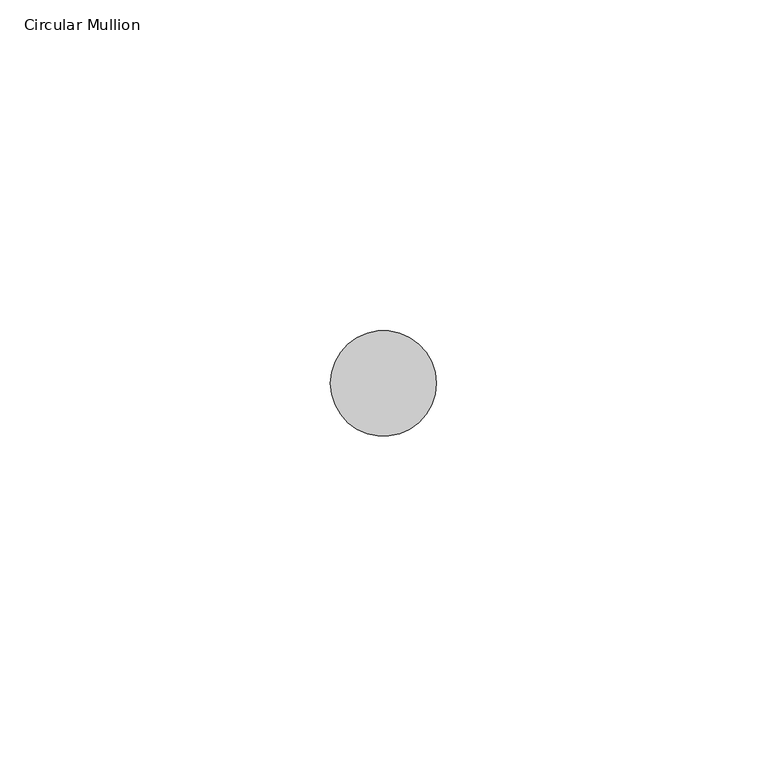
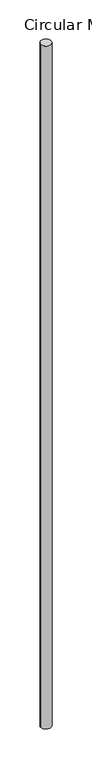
"""IFC4 building model written with IfcOpenShell, lengths in millimetres: member geometry, Circular Mullion : ARQ_HERR_16mm."""

import ifcopenshell
import ifcopenshell.guid

model = None  # the IFC model being written
_history = None  # IfcOwnerHistory: only IFC2X3 demands one
_inside = {}  # id of a spatial element -> (the spatial element, [elements in it])
_under = {}  # id of a project, library or spatial element -> (it, [spatial elements below it])
_declared = {}  # id of a project -> (the project, [libraries it declares])
_typed = {}  # id of a type object -> (the type object, [elements of that type])
_made_of = {}  # id of a material, layer set ... -> (it, [elements and type objects made of it])


def new_model(schema):
    """Start an empty IFC model of exactly this schema.

    Asked for "IFC4X3", IfcOpenShell would pick the latest addendum, in which some entities
    have other attributes; the version numbers below select the first issue.
    IFC2X3 requires an IfcOwnerHistory on every rooted entity: one is made here for all.
    """
    global model, _history
    if schema == "IFC4X3":
        model = ifcopenshell.file(schema_version=(4, 3, 0, 0))
    else:
        model = ifcopenshell.file(schema=schema)
    _inside.clear()
    _under.clear()
    _declared.clear()
    _typed.clear()
    _made_of.clear()
    _history = None
    if model.schema == "IFC2X3":
        org = make("IfcOrganization", Name="unknown")
        user = make(
            "IfcPersonAndOrganization",
            ThePerson=make("IfcPerson", FamilyName="unknown"),
            TheOrganization=org,
        )
        app = make(
            "IfcApplication",
            ApplicationDeveloper=org,
            Version="unknown",
            ApplicationFullName="unknown",
            ApplicationIdentifier="unknown",
        )
        _history = make(
            "IfcOwnerHistory",
            OwningUser=user,
            OwningApplication=app,
            ChangeAction="ADDED",
            CreationDate=0,
        )
    return model


def make(cls, **values):
    """One entity of the class cls with the attributes given. An attribute that is None is left unset."""
    return model.create_entity(
        cls, **{name: value for name, value in values.items() if value is not None}
    )


def rooted(cls, **values):
    """An entity with a GlobalId (a new one), such as an element, a storey or a relation."""
    return make(cls, GlobalId=ifcopenshell.guid.new(), OwnerHistory=_history, **values)


def si_unit(unit_type, name, prefix=None):
    """IfcSIUnit, for example si_unit("LENGTHUNIT", "METRE", prefix="MILLI")."""
    return make("IfcSIUnit", UnitType=unit_type, Prefix=prefix, Name=name)


def assignment(units):
    """IfcUnitAssignment: the units of a project."""
    return None if units is None else make("IfcUnitAssignment", Units=units)


def point(xyz):
    """IfcCartesianPoint."""
    return None if xyz is None else make("IfcCartesianPoint", Coordinates=xyz)


def direction(xyz):
    """IfcDirection."""
    return None if xyz is None else make("IfcDirection", DirectionRatios=xyz)


def frame(location, z_axis=None, x_axis=None):
    """IfcAxis2Placement3D, a coordinate frame: its origin and axes. An axis left out is left unset."""
    return make(
        "IfcAxis2Placement3D",
        Location=point(location),
        Axis=direction(z_axis),
        RefDirection=direction(x_axis),
    )


def frame_2d(location, x_axis=None):
    """IfcAxis2Placement2D, a coordinate frame in the plane: its origin and x axis."""
    return make(
        "IfcAxis2Placement2D", Location=point(location), RefDirection=direction(x_axis)
    )


def origin():
    """The frame at (0, 0, 0) with its axes left unset."""
    return frame((0.0, 0.0, 0.0))


def origin_2d():
    """The frame at (0, 0) in the plane with its x axis left unset."""
    return frame_2d((0.0, 0.0))


def place(relative_to, where):
    """IfcLocalPlacement: puts the frame where relative to a parent placement (None: the world)."""
    return make(
        "IfcLocalPlacement", PlacementRelTo=relative_to, RelativePlacement=where
    )


def context(
    kind, dimensions, precision=None, world=None, true_north=None, identifier=None
):
    """IfcGeometricRepresentationContext, for example the 3D "Model" context."""
    return make(
        "IfcGeometricRepresentationContext",
        ContextIdentifier=identifier,
        ContextType=kind,
        CoordinateSpaceDimension=dimensions,
        Precision=precision,
        WorldCoordinateSystem=world,
        TrueNorth=true_north,
    )


def project(units=None, contexts=None):
    """IfcProject with its units and contexts."""
    return rooted(
        "IfcProject",
        Name="project",
        RepresentationContexts=contexts,
        UnitsInContext=assignment(units),
    )


def spatial(cls, under=None, at=None, **own):
    """A site, building, storey or space (cls), placed at a placement, below another one or the project."""
    s = rooted(cls, ObjectPlacement=at, **own)
    if under is not None:
        _under.setdefault(under.id(), (under, []))[1].append(s)
    return s


def circle_curve(where, radius):
    """IfcCircle in the frame where."""
    return make("IfcCircle", Position=where, Radius=radius)


def trimmed(basis, trim1, trim2, sense, master):
    """IfcTrimmedCurve: the piece of a basis curve between two trims."""
    return make(
        "IfcTrimmedCurve",
        BasisCurve=basis,
        Trim1=trim1,
        Trim2=trim2,
        SenseAgreement=sense,
        MasterRepresentation=master,
    )


def segment(curve, same_sense, transition):
    """IfcCompositeCurveSegment."""
    return make(
        "IfcCompositeCurveSegment",
        Transition=transition,
        SameSense=same_sense,
        ParentCurve=curve,
    )


def composite_curve(segments, self_intersect=None):
    """IfcCompositeCurve: segments joined end to end."""
    return make("IfcCompositeCurve", Segments=segments, SelfIntersect=self_intersect)


def outline(outer, holes=None, kind="AREA"):
    """IfcArbitraryClosedProfileDef: a profile drawn as a closed curve; with holes, ...WithVoids."""
    if holes is None:
        return make("IfcArbitraryClosedProfileDef", ProfileType=kind, OuterCurve=outer)
    return make(
        "IfcArbitraryProfileDefWithVoids",
        ProfileType=kind,
        OuterCurve=outer,
        InnerCurves=holes,
    )


def extrude(swept, where, along, depth):
    """IfcExtrudedAreaSolid: the profile swept, set in the frame where, extruded along a direction by depth."""
    return make(
        "IfcExtrudedAreaSolid",
        SweptArea=swept,
        Position=where,
        ExtrudedDirection=direction(along),
        Depth=depth,
    )


def shape(context_of_items, identifier, shape_type, items):
    """IfcShapeRepresentation: the items that make up one representation, for example the "Body"."""
    return make(
        "IfcShapeRepresentation",
        ContextOfItems=context_of_items,
        RepresentationIdentifier=identifier,
        RepresentationType=shape_type,
        Items=items,
    )


def source(mapping_origin, context_of_items, identifier, shape_type, items):
    """IfcRepresentationMap: a shape defined once, which mapped items show again and again."""
    return make(
        "IfcRepresentationMap",
        MappingOrigin=mapping_origin,
        MappedRepresentation=shape(context_of_items, identifier, shape_type, items),
    )


def transform(
    local_origin,
    x_axis=None,
    y_axis=None,
    z_axis=None,
    scale=None,
    scale2=None,
    scale3=None,
    uniform=True,
):
    """IfcCartesianTransformationOperator3D, or its non-uniform kind. x_axis, y_axis, z_axis: its Axis1, 2, 3."""
    if uniform:
        return make(
            "IfcCartesianTransformationOperator3D",
            Axis1=direction(x_axis),
            Axis2=direction(y_axis),
            LocalOrigin=point(local_origin),
            Scale=scale,
            Axis3=direction(z_axis),
        )
    return make(
        "IfcCartesianTransformationOperator3DnonUniform",
        Axis1=direction(x_axis),
        Axis2=direction(y_axis),
        LocalOrigin=point(local_origin),
        Scale=scale,
        Axis3=direction(z_axis),
        Scale2=scale2,
        Scale3=scale3,
    )


def mapped(mapping_source, mapping_target):
    """IfcMappedItem: shows the shape of a source again, moved by a transform."""
    return make(
        "IfcMappedItem", MappingSource=mapping_source, MappingTarget=mapping_target
    )


def made_of(thing, what):
    """Note that an element or type object is made of a material, layer set ...; save() writes the relation."""
    if what is not None:
        _made_of.setdefault(what.id(), (what, []))[1].append(thing)
    return thing


def element(
    cls,
    number,
    at=None,
    inside=None,
    cuts=None,
    type_object=None,
    material=None,
    context=None,
    identifier="Body",
    shape_type=None,
    held_by="IfcProductDefinitionShape",
    body=None,
    shapes=None,
    **own,
):
    """One element of the class cls, such as IfcWall. Its Tag is "e" and its number.

    at: its placement. inside: the storey or other place that contains it. cuts: it is an
    opening in that element (IfcRelVoidsElement). A single representation is given by context,
    identifier, shape_type and body (its items); several are given by shapes. held_by: the class
    of the entity that holds the representations. save() writes the other relations.
    """
    e = rooted(cls, Tag="e%d" % number, ObjectPlacement=at, **own)
    if body is not None:
        shapes = [shape(context, identifier, shape_type, body)]
    if shapes is not None:
        e.Representation = make(held_by, Representations=shapes)
    if inside is not None:
        _inside.setdefault(inside.id(), (inside, []))[1].append(e)
    if cuts is not None:
        rooted(
            "IfcRelVoidsElement", RelatingBuildingElement=cuts, RelatedOpeningElement=e
        )
    if type_object is not None:
        _typed.setdefault(type_object.id(), (type_object, []))[1].append(e)
    return made_of(e, material)


def aggregate(whole, parts):
    """IfcRelAggregates: a whole, such as a stair, and the parts it consists of."""
    return rooted("IfcRelAggregates", RelatingObject=whole, RelatedObjects=parts)


def save(model, path):
    """Write the relations noted so far, then the file.

    IfcRelAggregates (storeys below a building ...), IfcRelContainedInSpatialStructure (elements
    in a storey), IfcRelDefinesByType, IfcRelAssociatesMaterial and IfcRelDeclares: one each for
    every whole, place, type object, material and project.
    """
    for whole, parts in _under.values():
        aggregate(whole, parts)
    for where, things in _inside.values():
        rooted(
            "IfcRelContainedInSpatialStructure",
            RelatedElements=things,
            RelatingStructure=where,
        )
    for kind, things in _typed.values():
        rooted("IfcRelDefinesByType", RelatedObjects=things, RelatingType=kind)
    for what, things in _made_of.values():
        rooted("IfcRelAssociatesMaterial", RelatedObjects=things, RelatingMaterial=what)
    for by, libraries in _declared.values():
        rooted("IfcRelDeclares", RelatingContext=by, RelatedDefinitions=libraries)
    model.write(path)


def circular_mullion_0549192e(model_context):
    return source(origin(), model_context, "Body", "SweptSolid", [
        extrude(outline(composite_curve([segment(trimmed(circle_curve(origin_2d(), 8.0), [point((8.0, 0.0))], [point((-8.0, 0.0))], False, "CARTESIAN"), True, "CONTINUOUS"), segment(trimmed(circle_curve(origin_2d(), 8.0), [point((-8.0, 0.0))], [point((8.0, 0.0))], False, "CARTESIAN"), True, "CONTINUOUS")], self_intersect=False)), frame((0.0, 0.0, -1100.6872549), z_axis=(0.0, 0.0, 1.0), x_axis=(1.0, 0.0, 0.0)), (0.0, 0.0, 1.0), 1100.6872549),
    ])


if __name__ == "__main__":
    model = new_model("IFC4")
    model_context = context("Model", 3, world=origin())
    ifc_project = project(units=[si_unit("LENGTHUNIT", "METRE", prefix="MILLI")], contexts=[model_context])
    site = spatial("IfcSite", under=ifc_project)
    building = spatial("IfcBuilding", under=site)
    placement = place(None, origin())
    circular_mullion_shape = circular_mullion_0549192e(model_context)
    element("IfcMember", 1, ObjectType="Circular Mullion : ARQ_HERR_16mm", at=placement, inside=building, context=model_context, shape_type="MappedRepresentation", body=[
        mapped(circular_mullion_shape, transform((0.0, 0.0, 0.0), x_axis=(1.0, 0.0, 0.0), y_axis=(0.0, 1.0, 0.0), z_axis=(0.0, 0.0, 1.0))),
    ])
    save(model, "model.ifc")
